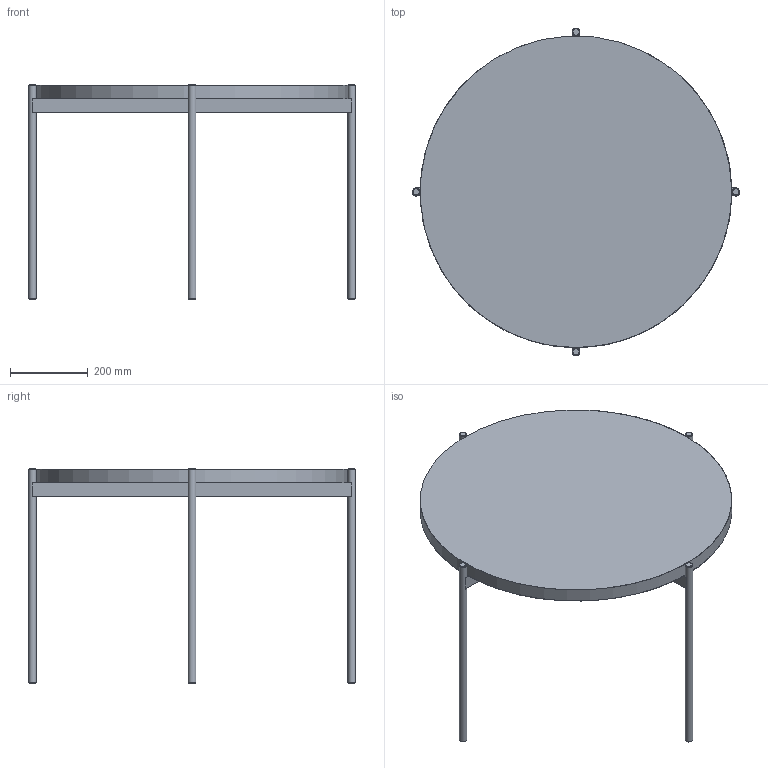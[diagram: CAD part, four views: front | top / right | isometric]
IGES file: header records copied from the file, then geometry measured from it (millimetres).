
Global section: file name: \\server2\Datos\PROYECTOS\2022\DOOS - Stand Feria H; native system: Rhinoceros ( Nov 10 2020 ); preprocessor: Trout Lake IGES 012 Nov 10 2020; date: 220818.060423; units: millimetre
Bounding box: 840 x 840 x 552 mm (x, y, z)
Surface area: 1417487 mm2 (no closed solid volume)
Topology: 0 solids, 0 shells, 35 faces, 131 edges, 118 vertices
Faces by surface type: bspline 35
